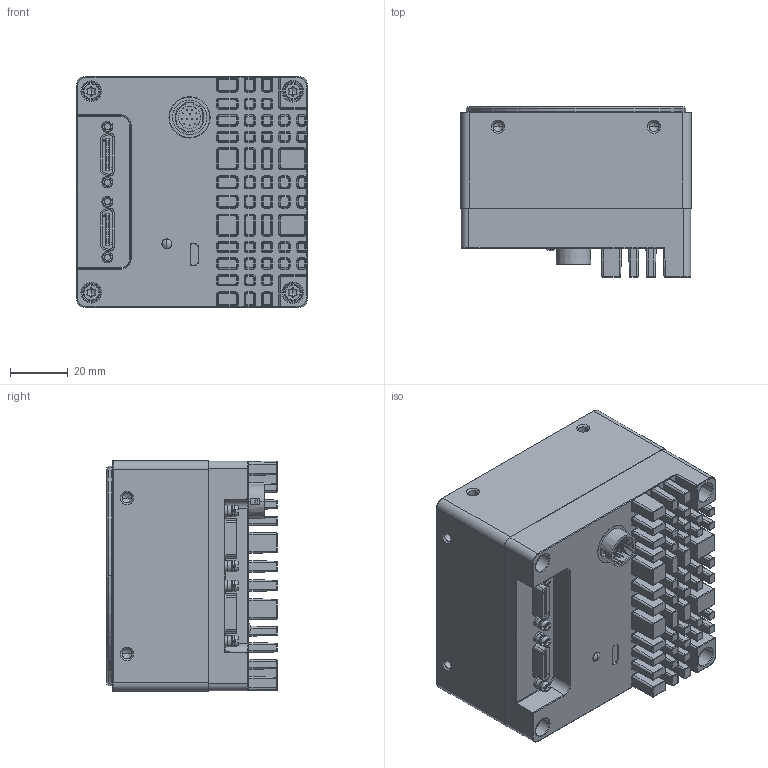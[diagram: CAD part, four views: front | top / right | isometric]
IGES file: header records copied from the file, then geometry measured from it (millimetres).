
Start section:  PTC IGES file: 8k-cml_sw0001.igs
Global section: file name: 8k-cml_sw0001.igs; native system: Creo Parametric by PTC Inc.; preprocessor: 2020184; author: 303992; organization: Unknown; date: 20240322.144854; units: millimetre
Bounding box: 80 x 59.05 x 80 mm (x, y, z)
Surface area: 47053.4 mm2 (no closed solid volume)
Topology: 0 solids, 0 shells, 2594 faces, 12360 edges, 12326 vertices
Faces by surface type: revolution 1627, bspline 967
